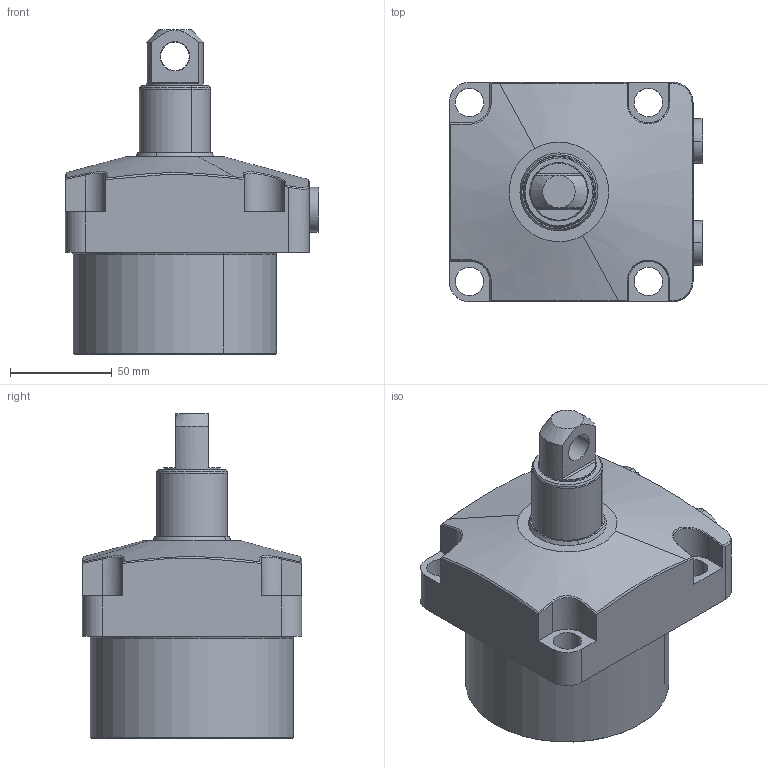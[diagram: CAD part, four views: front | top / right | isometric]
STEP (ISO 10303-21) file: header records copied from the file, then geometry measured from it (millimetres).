
FILE_DESCRIPTION(('CATIA V5 STEP Exchange'),'2;1');
FILE_NAME('C:\Users\kong\Desktop\GCD-25-30X.stp','2014-11-04T06:48:07+00:00',('none'),('none'),'CATIA Version 5 Release 17 (IN-10)','CATIA V5 STEP AP203','none');
FILE_SCHEMA(('CONFIG_CONTROL_DESIGN'));
Length unit declared in the file: millimetre
Products named in the file (1): Product2
Assembly tree (4 placements, depth 2):
  Product2
    #56
    #5374  x2
    #6050
Bounding box: 124.81 x 108 x 159.5 mm (x, y, z)
Volume: 905387.9 mm3; surface area: 78260.1 mm2
Topology: 4 solids, 4 shells, 169 faces, 416 edges, 270 vertices
Faces by surface type: plane 55, cylinder 52, cone 30, bspline 22, torus 10
Entity records: 6872 total; most frequent: CARTESIAN_POINT 3649, ORIENTED_EDGE 740, DIRECTION 449, EDGE_CURVE 370, VERTEX_POINT 242, AXIS2_PLACEMENT_3D 223, EDGE_LOOP 170, ADVANCED_FACE 147
